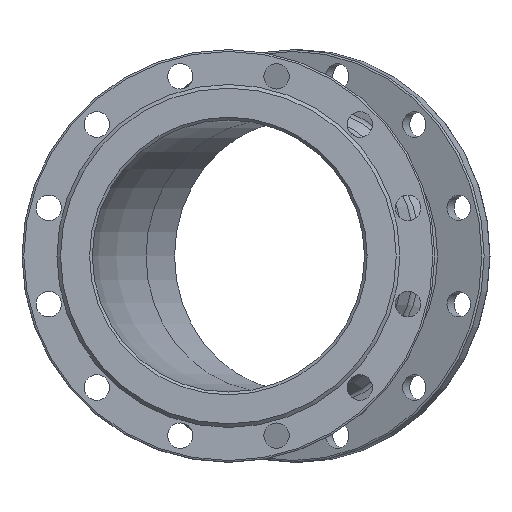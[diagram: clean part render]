
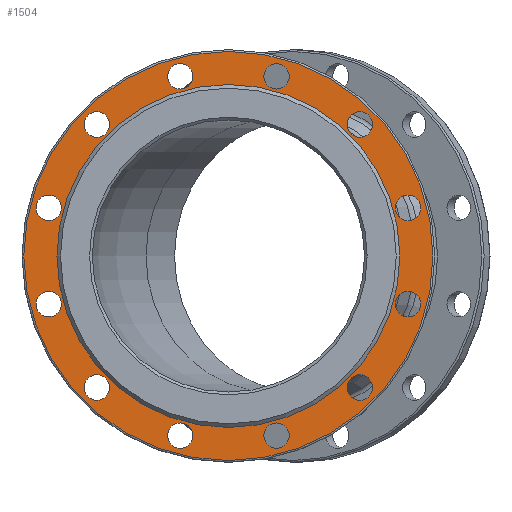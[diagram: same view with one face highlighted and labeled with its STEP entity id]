
A CAD part, left-side view. The second image highlights one B-rep face of the part: STEP entity #1504.
In plain terms, the highlighted planar face has unit normal (-1, 0, 0).
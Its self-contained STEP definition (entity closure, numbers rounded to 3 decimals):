
#4 = CIRCLE ( 'NONE', #54, 14. ) ;
#15 = CARTESIAN_POINT ( 'NONE',  ( 4., 0., 0. ) ) ;
#46 = DIRECTION ( 'NONE',  ( 0., 0., -1. ) ) ;
#54 = AXIS2_PLACEMENT_3D ( 'NONE', #454, #1288, #2207 ) ;
#73 = EDGE_LOOP ( 'NONE', ( #2188 ) ) ;
#88 = CARTESIAN_POINT ( 'NONE',  ( 4., 144.957, 144.957 ) ) ;
#99 = CIRCLE ( 'NONE', #2044, 14. ) ;
#131 = EDGE_CURVE ( 'NONE', #562, #562, #1444, .T. ) ;
#140 = EDGE_CURVE ( 'NONE', #619, #619, #1212, .T. ) ;
#162 = DIRECTION ( 'NONE',  ( 0., 0., -1. ) ) ;
#166 = FACE_BOUND ( 'NONE', #1323, .T. ) ;
#169 = CARTESIAN_POINT ( 'NONE',  ( 4., 53.058, -198.015 ) ) ;
#173 = ORIENTED_EDGE ( 'NONE', *, *, #1566, .F. ) ;
#227 = EDGE_CURVE ( 'NONE', #1024, #1024, #645, .T. ) ;
#236 = EDGE_CURVE ( 'NONE', #2347, #2347, #2032, .T. ) ;
#241 = AXIS2_PLACEMENT_3D ( 'NONE', #557, #2532, #1217 ) ;
#249 = EDGE_LOOP ( 'NONE', ( #1580 ) ) ;
#262 = EDGE_LOOP ( 'NONE', ( #456 ) ) ;
#278 = CIRCLE ( 'NONE', #1206, 225.5 ) ;
#287 = ORIENTED_EDGE ( 'NONE', *, *, #1612, .F. ) ;
#303 = EDGE_LOOP ( 'NONE', ( #2064 ) ) ;
#310 = ORIENTED_EDGE ( 'NONE', *, *, #772, .F. ) ;
#391 = CARTESIAN_POINT ( 'NONE',  ( 4., 53.058, 184.015 ) ) ;
#398 = EDGE_LOOP ( 'NONE', ( #310 ) ) ;
#427 = CIRCLE ( 'NONE', #1538, 14. ) ;
#454 = CARTESIAN_POINT ( 'NONE',  ( 4., 198.015, 53.058 ) ) ;
#456 = ORIENTED_EDGE ( 'NONE', *, *, #227, .F. ) ;
#463 = CARTESIAN_POINT ( 'NONE',  ( 4., 0., 0. ) ) ;
#482 = EDGE_CURVE ( 'NONE', #2800, #2800, #2261, .T. ) ;
#485 = CARTESIAN_POINT ( 'NONE',  ( 4., -144.957, -144.957 ) ) ;
#492 = ORIENTED_EDGE ( 'NONE', *, *, #1971, .F. ) ;
#498 = ORIENTED_EDGE ( 'NONE', *, *, #2627, .T. ) ;
#557 = CARTESIAN_POINT ( 'NONE',  ( 4., 189., 0. ) ) ;
#562 = VERTEX_POINT ( 'NONE', #2786 ) ;
#619 = VERTEX_POINT ( 'NONE', #1468 ) ;
#645 = CIRCLE ( 'NONE', #2635, 14. ) ;
#656 = AXIS2_PLACEMENT_3D ( 'NONE', #847, #1736, #2389 ) ;
#689 = EDGE_LOOP ( 'NONE', ( #173 ) ) ;
#701 = DIRECTION ( 'NONE',  ( -1., 0., 0. ) ) ;
#703 = ORIENTED_EDGE ( 'NONE', *, *, #2283, .F. ) ;
#710 = DIRECTION ( 'NONE',  ( 0., 0., -1. ) ) ;
#761 = DIRECTION ( 'NONE',  ( -1., 0., 0. ) ) ;
#772 = EDGE_CURVE ( 'NONE', #1089, #1089, #1310, .T. ) ;
#775 = FACE_OUTER_BOUND ( 'NONE', #1104, .T. ) ;
#798 = AXIS2_PLACEMENT_3D ( 'NONE', #1367, #1090, #1555 ) ;
#807 = FACE_BOUND ( 'NONE', #1988, .T. ) ;
#814 = ORIENTED_EDGE ( 'NONE', *, *, #140, .F. ) ;
#847 = CARTESIAN_POINT ( 'NONE',  ( 4., -53.058, 198.015 ) ) ;
#863 = ORIENTED_EDGE ( 'NONE', *, *, #236, .F. ) ;
#864 = VERTEX_POINT ( 'NONE', #2494 ) ;
#907 = VERTEX_POINT ( 'NONE', #2197 ) ;
#916 = DIRECTION ( 'NONE',  ( 0., 0., -1. ) ) ;
#1001 = DIRECTION ( 'NONE',  ( -1., 0., 0. ) ) ;
#1018 = FACE_BOUND ( 'NONE', #262, .T. ) ;
#1024 = VERTEX_POINT ( 'NONE', #391 ) ;
#1044 = EDGE_LOOP ( 'NONE', ( #863 ) ) ;
#1066 = CIRCLE ( 'NONE', #1623, 189. ) ;
#1080 = CARTESIAN_POINT ( 'NONE',  ( 4., -53.058, -198.015 ) ) ;
#1089 = VERTEX_POINT ( 'NONE', #2181 ) ;
#1090 = DIRECTION ( 'NONE',  ( -1., 0., 0. ) ) ;
#1095 = DIRECTION ( 'NONE',  ( -1., 0., 0. ) ) ;
#1104 = EDGE_LOOP ( 'NONE', ( #498 ) ) ;
#1143 = VERTEX_POINT ( 'NONE', #1782 ) ;
#1152 = DIRECTION ( 'NONE',  ( -1., 0., 0. ) ) ;
#1206 = AXIS2_PLACEMENT_3D ( 'NONE', #15, #2861, #2011 ) ;
#1212 = CIRCLE ( 'NONE', #2814, 14. ) ;
#1217 = DIRECTION ( 'NONE',  ( 0., 0., -1. ) ) ;
#1242 = FACE_BOUND ( 'NONE', #1044, .T. ) ;
#1288 = DIRECTION ( 'NONE',  ( -1., 0., 0. ) ) ;
#1310 = CIRCLE ( 'NONE', #2535, 14. ) ;
#1323 = EDGE_LOOP ( 'NONE', ( #703 ) ) ;
#1327 = CARTESIAN_POINT ( 'NONE',  ( 4., -198.015, -67.058 ) ) ;
#1336 = DIRECTION ( 'NONE',  ( -1., 0., 0. ) ) ;
#1367 = CARTESIAN_POINT ( 'NONE',  ( 4., 198.015, -53.058 ) ) ;
#1386 = EDGE_LOOP ( 'NONE', ( #1784 ) ) ;
#1398 = AXIS2_PLACEMENT_3D ( 'NONE', #485, #1152, #46 ) ;
#1405 = DIRECTION ( 'NONE',  ( -1., 0., 0. ) ) ;
#1435 = CARTESIAN_POINT ( 'NONE',  ( 4., 0., 189. ) ) ;
#1444 = CIRCLE ( 'NONE', #2451, 14. ) ;
#1461 = CARTESIAN_POINT ( 'NONE',  ( 4., 53.058, 198.015 ) ) ;
#1464 = EDGE_LOOP ( 'NONE', ( #1602 ) ) ;
#1468 = CARTESIAN_POINT ( 'NONE',  ( 4., 144.957, 130.957 ) ) ;
#1504 = ADVANCED_FACE ( 'NONE', ( #775, #1680, #1018, #2574, #1884, #2330, #1720, #166, #1902, #2362, #2760, #1242, #2748, #807 ), #2148, .F. ) ;
#1519 = CARTESIAN_POINT ( 'NONE',  ( 4., -198.015, -53.058 ) ) ;
#1538 = AXIS2_PLACEMENT_3D ( 'NONE', #1519, #1336, #1958 ) ;
#1555 = DIRECTION ( 'NONE',  ( 0., 0., -1. ) ) ;
#1566 = EDGE_CURVE ( 'NONE', #2668, #2668, #427, .T. ) ;
#1573 = CARTESIAN_POINT ( 'NONE',  ( 4., -144.957, 144.957 ) ) ;
#1580 = ORIENTED_EDGE ( 'NONE', *, *, #2695, .F. ) ;
#1595 = EDGE_CURVE ( 'NONE', #907, #907, #4, .T. ) ;
#1602 = ORIENTED_EDGE ( 'NONE', *, *, #2604, .F. ) ;
#1612 = EDGE_CURVE ( 'NONE', #1143, #1143, #1900, .T. ) ;
#1623 = AXIS2_PLACEMENT_3D ( 'NONE', #463, #2204, #2038 ) ;
#1659 = DIRECTION ( 'NONE',  ( 0., 0., -1. ) ) ;
#1680 = FACE_BOUND ( 'NONE', #249, .T. ) ;
#1720 = FACE_BOUND ( 'NONE', #1386, .T. ) ;
#1736 = DIRECTION ( 'NONE',  ( -1., 0., 0. ) ) ;
#1782 = CARTESIAN_POINT ( 'NONE',  ( 4., -53.058, 184.015 ) ) ;
#1784 = ORIENTED_EDGE ( 'NONE', *, *, #131, .F. ) ;
#1824 = EDGE_LOOP ( 'NONE', ( #814 ) ) ;
#1884 = FACE_BOUND ( 'NONE', #73, .T. ) ;
#1887 = DIRECTION ( 'NONE',  ( 0., 0., -1. ) ) ;
#1900 = CIRCLE ( 'NONE', #656, 14. ) ;
#1902 = FACE_BOUND ( 'NONE', #398, .T. ) ;
#1931 = DIRECTION ( 'NONE',  ( -1., 0., 0. ) ) ;
#1958 = DIRECTION ( 'NONE',  ( 0., 0., -1. ) ) ;
#1971 = EDGE_CURVE ( 'NONE', #2019, #2019, #2776, .T. ) ;
#1988 = EDGE_LOOP ( 'NONE', ( #287 ) ) ;
#1990 = VERTEX_POINT ( 'NONE', #2653 ) ;
#2011 = DIRECTION ( 'NONE',  ( 0., 0., -1. ) ) ;
#2019 = VERTEX_POINT ( 'NONE', #2844 ) ;
#2032 = CIRCLE ( 'NONE', #2453, 14. ) ;
#2033 = VERTEX_POINT ( 'NONE', #1435 ) ;
#2038 = DIRECTION ( 'NONE',  ( 0., 0., 1. ) ) ;
#2044 = AXIS2_PLACEMENT_3D ( 'NONE', #169, #1931, #1887 ) ;
#2059 = CARTESIAN_POINT ( 'NONE',  ( 4., 144.957, -144.957 ) ) ;
#2064 = ORIENTED_EDGE ( 'NONE', *, *, #482, .F. ) ;
#2103 = DIRECTION ( 'NONE',  ( 0., 0., -1. ) ) ;
#2148 = PLANE ( 'NONE',  #241 ) ;
#2181 = CARTESIAN_POINT ( 'NONE',  ( 4., -53.058, -212.015 ) ) ;
#2188 = ORIENTED_EDGE ( 'NONE', *, *, #1595, .F. ) ;
#2197 = CARTESIAN_POINT ( 'NONE',  ( 4., 198.015, 39.058 ) ) ;
#2204 = DIRECTION ( 'NONE',  ( -1., 0., 0. ) ) ;
#2207 = DIRECTION ( 'NONE',  ( 0., 0., -1. ) ) ;
#2232 = DIRECTION ( 'NONE',  ( -1., 0., 0. ) ) ;
#2259 = EDGE_LOOP ( 'NONE', ( #492 ) ) ;
#2261 = CIRCLE ( 'NONE', #1398, 14. ) ;
#2283 = EDGE_CURVE ( 'NONE', #1990, #1990, #99, .T. ) ;
#2330 = FACE_BOUND ( 'NONE', #2259, .T. ) ;
#2333 = CARTESIAN_POINT ( 'NONE',  ( 4., -198.015, 39.058 ) ) ;
#2347 = VERTEX_POINT ( 'NONE', #2333 ) ;
#2362 = FACE_BOUND ( 'NONE', #303, .T. ) ;
#2365 = CIRCLE ( 'NONE', #2777, 14. ) ;
#2389 = DIRECTION ( 'NONE',  ( 0., 0., -1. ) ) ;
#2451 = AXIS2_PLACEMENT_3D ( 'NONE', #2059, #701, #2465 ) ;
#2453 = AXIS2_PLACEMENT_3D ( 'NONE', #2519, #761, #1659 ) ;
#2465 = DIRECTION ( 'NONE',  ( 0., 0., -1. ) ) ;
#2494 = CARTESIAN_POINT ( 'NONE',  ( 4., -144.957, 130.957 ) ) ;
#2519 = CARTESIAN_POINT ( 'NONE',  ( 4., -198.015, 53.058 ) ) ;
#2521 = VERTEX_POINT ( 'NONE', #2727 ) ;
#2532 = DIRECTION ( 'NONE',  ( 1., 0., 0. ) ) ;
#2535 = AXIS2_PLACEMENT_3D ( 'NONE', #1080, #1095, #162 ) ;
#2574 = FACE_BOUND ( 'NONE', #1824, .T. ) ;
#2604 = EDGE_CURVE ( 'NONE', #864, #864, #2365, .T. ) ;
#2627 = EDGE_CURVE ( 'NONE', #2521, #2521, #278, .T. ) ;
#2635 = AXIS2_PLACEMENT_3D ( 'NONE', #1461, #1001, #2103 ) ;
#2653 = CARTESIAN_POINT ( 'NONE',  ( 4., 53.058, -212.015 ) ) ;
#2668 = VERTEX_POINT ( 'NONE', #1327 ) ;
#2695 = EDGE_CURVE ( 'NONE', #2033, #2033, #1066, .T. ) ;
#2727 = CARTESIAN_POINT ( 'NONE',  ( 4., 0., -225.5 ) ) ;
#2748 = FACE_BOUND ( 'NONE', #1464, .T. ) ;
#2760 = FACE_BOUND ( 'NONE', #689, .T. ) ;
#2776 = CIRCLE ( 'NONE', #798, 14. ) ;
#2777 = AXIS2_PLACEMENT_3D ( 'NONE', #1573, #2232, #710 ) ;
#2786 = CARTESIAN_POINT ( 'NONE',  ( 4., 144.957, -158.957 ) ) ;
#2800 = VERTEX_POINT ( 'NONE', #2812 ) ;
#2812 = CARTESIAN_POINT ( 'NONE',  ( 4., -144.957, -158.957 ) ) ;
#2814 = AXIS2_PLACEMENT_3D ( 'NONE', #88, #1405, #916 ) ;
#2844 = CARTESIAN_POINT ( 'NONE',  ( 4., 198.015, -67.058 ) ) ;
#2861 = DIRECTION ( 'NONE',  ( -1., 0., 0. ) ) ;
